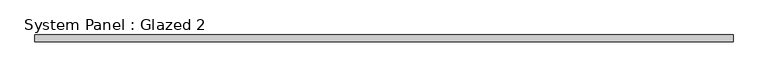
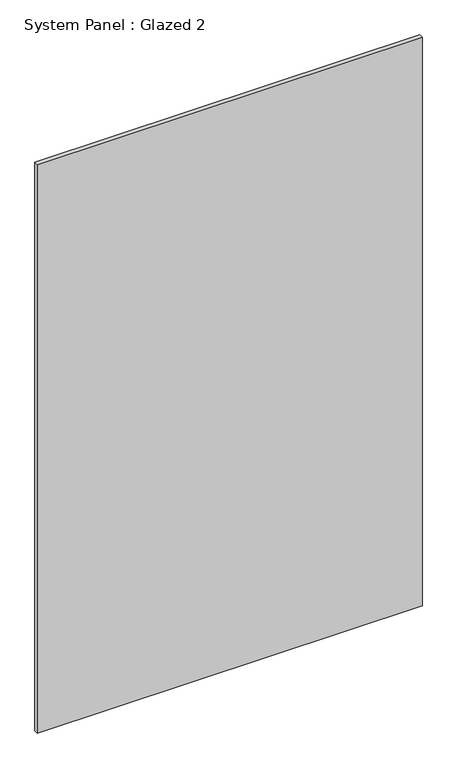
"""IFC4 building model written with IfcOpenShell, lengths in millimetres: plate geometry, System Panel : Glazed 2."""

from ifc_helpers import new_model, si_unit, origin, origin_with_axes, place, context, project, spatial, polyline, outline, extrude, source, transform, mapped, element, save


def system_panel_glazed_2_60bf9f6a(model_context):
    return source(origin(), model_context, "Body", "SweptSolid", [
        extrude(outline(polyline([(667.5, -6.35), (-667.5, -6.35), (-667.5, 6.35), (667.5, 6.35), (667.5, -6.35)])), origin_with_axes(), (0.0, 0.0, 1.0), 2084.1033932),
    ])


if __name__ == "__main__":
    model = new_model("IFC4")
    model_context = context("Model", 3, world=origin())
    ifc_project = project(units=[si_unit("LENGTHUNIT", "METRE", prefix="MILLI")], contexts=[model_context])
    site = spatial("IfcSite", under=ifc_project)
    building = spatial("IfcBuilding", under=site)
    placement = place(None, origin())
    system_panel_glazed_2_shape = system_panel_glazed_2_60bf9f6a(model_context)
    element("IfcPlate", 1, ObjectType="System Panel : Glazed 2", at=placement, inside=building, context=model_context, shape_type="MappedRepresentation", body=[
        mapped(system_panel_glazed_2_shape, transform((0.0, 0.0, 0.0), x_axis=(1.0, 0.0, 0.0), y_axis=(0.0, 1.0, 0.0), z_axis=(0.0, 0.0, 1.0))),
    ])
    save(model, "model.ifc")
